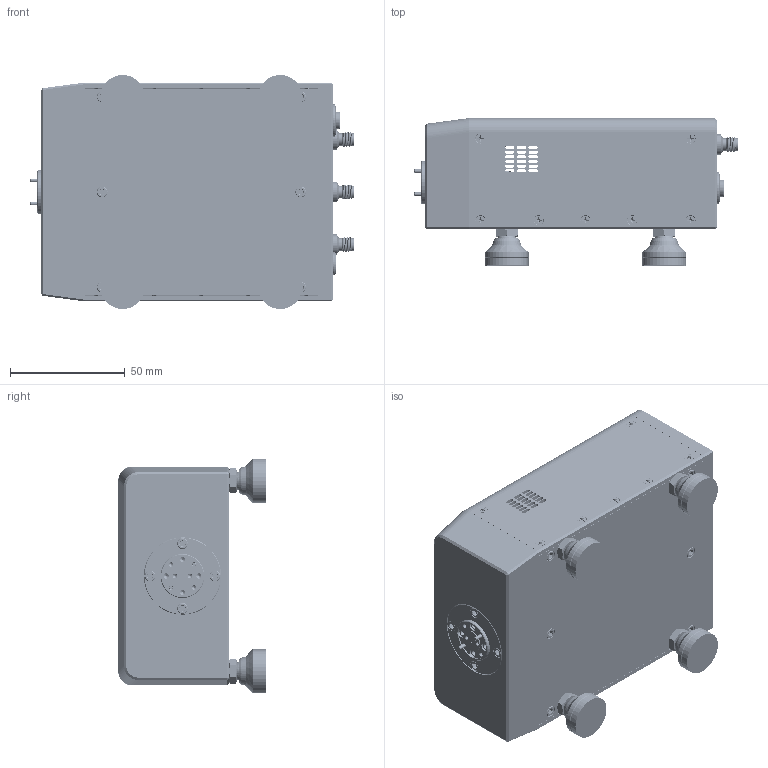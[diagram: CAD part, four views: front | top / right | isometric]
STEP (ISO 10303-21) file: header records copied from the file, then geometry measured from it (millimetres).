
FILE_DESCRIPTION (( 'STEP AP214' ), '1' );
FILE_NAME ('TO-TF-A.STEP', '2024-11-20T01:33:49', ( '' ), ( '' ), 'SwSTEP 2.0', 'SolidWorks 2021', '' );
FILE_SCHEMA (( 'AUTOMOTIVE_DESIGN' ));
Length unit declared in the file: inch
Products named in the file (1): TO-TF-A
Bounding box: 140.66 x 64.14 x 101.85 mm (x, y, z)
Volume: 191070.9 mm3; surface area: 128124.6 mm2
Topology: 79 solids, 79 shells, 4245 faces, 11244 edges, 7151 vertices
Faces by surface type: cylinder 2027, plane 1003, cone 807, bspline 363, sphere 37, torus 8
Entity records: 304964 total; most frequent: CARTESIAN_POINT 155001, ORIENTED_EDGE 22074, DIRECTION 16887, EDGE_CURVE 11037, VERTEX_POINT 7121, AXIS2_PLACEMENT_3D 6428, EDGE_LOOP 4642, DIMENSIONAL_EXPONENTS 4326
